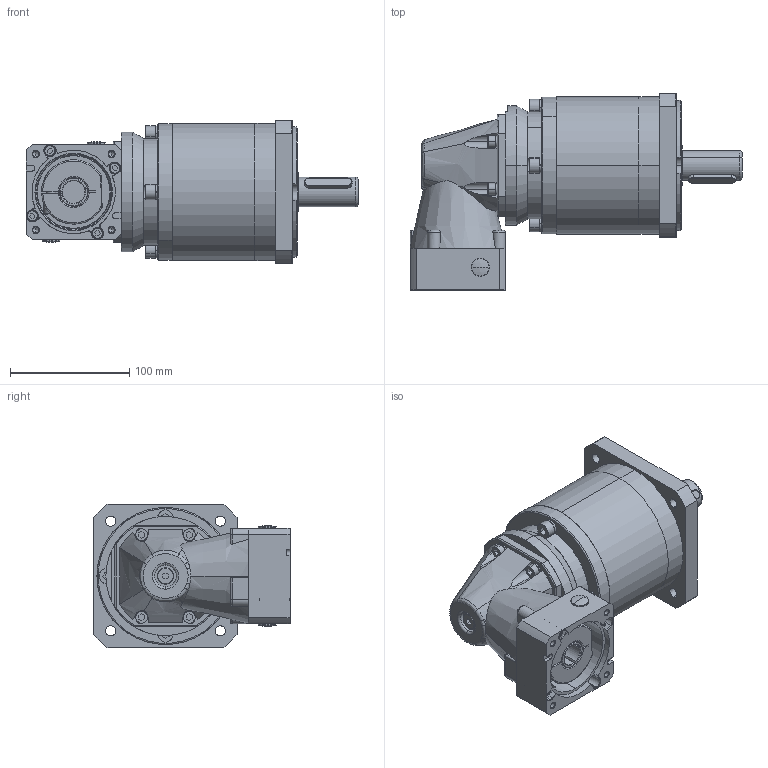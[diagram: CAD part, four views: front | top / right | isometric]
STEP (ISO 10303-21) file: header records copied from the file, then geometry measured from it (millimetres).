
FILE_DESCRIPTION (( 'STEP AP203' ), '1' );
FILE_NAME ('WPF115L3-i-P2-S2-19-40-70-90-M6.step', '2020-03-30T09:02:22', ( '个人用户' ), ( '微软中国' ), 'SwSTEP 2.0', 'SolidWorks 2018', '' );
FILE_SCHEMA (( 'CONFIG_CONTROL_DESIGN' ));
Length unit declared in the file: millimetre
Products named in the file (1): WPF115L3-i-P2-S2-19-40-70-90-M6
Bounding box: 278.5 x 164.5 x 120 mm (x, y, z)
Volume: 1359086 mm3; surface area: 349083.5 mm2
Topology: 45 solids, 45 shells, 1452 faces, 3418 edges, 2144 vertices
Faces by surface type: cylinder 536, plane 455, cone 213, torus 152, sphere 78, bspline 18
Entity records: 46497 total; most frequent: CARTESIAN_POINT 12359, DIRECTION 7574, ORIENTED_EDGE 6748, EDGE_CURVE 3374, AXIS2_PLACEMENT_3D 3083, VERTEX_POINT 2144, EDGE_LOOP 1688, CIRCLE 1648
